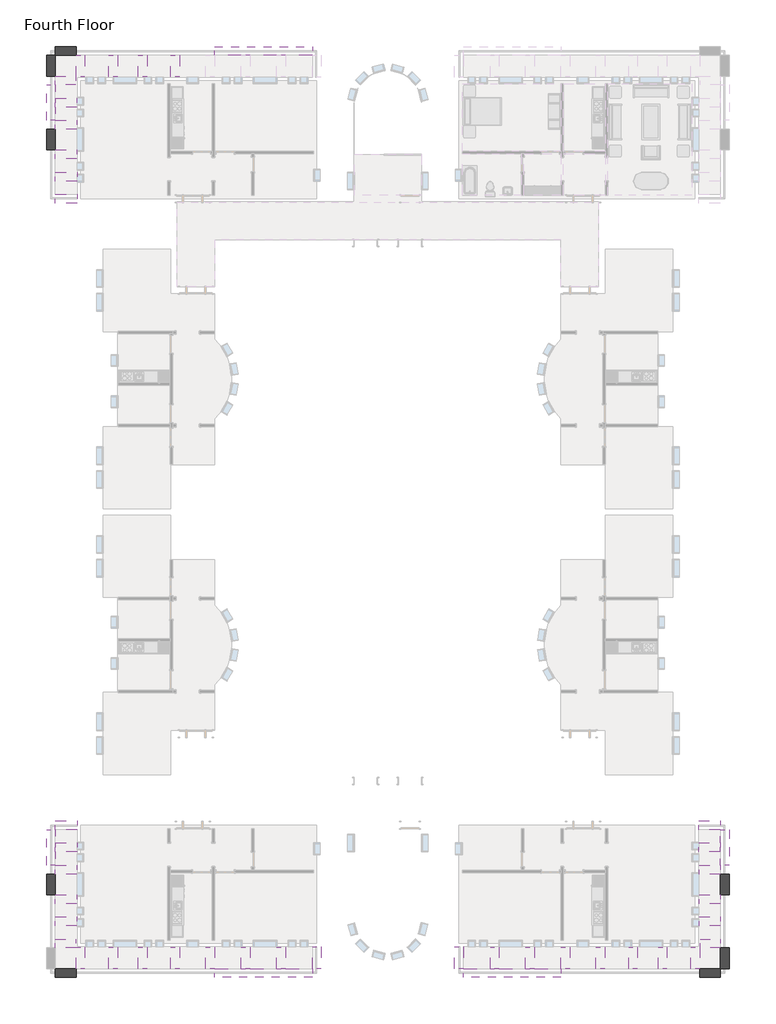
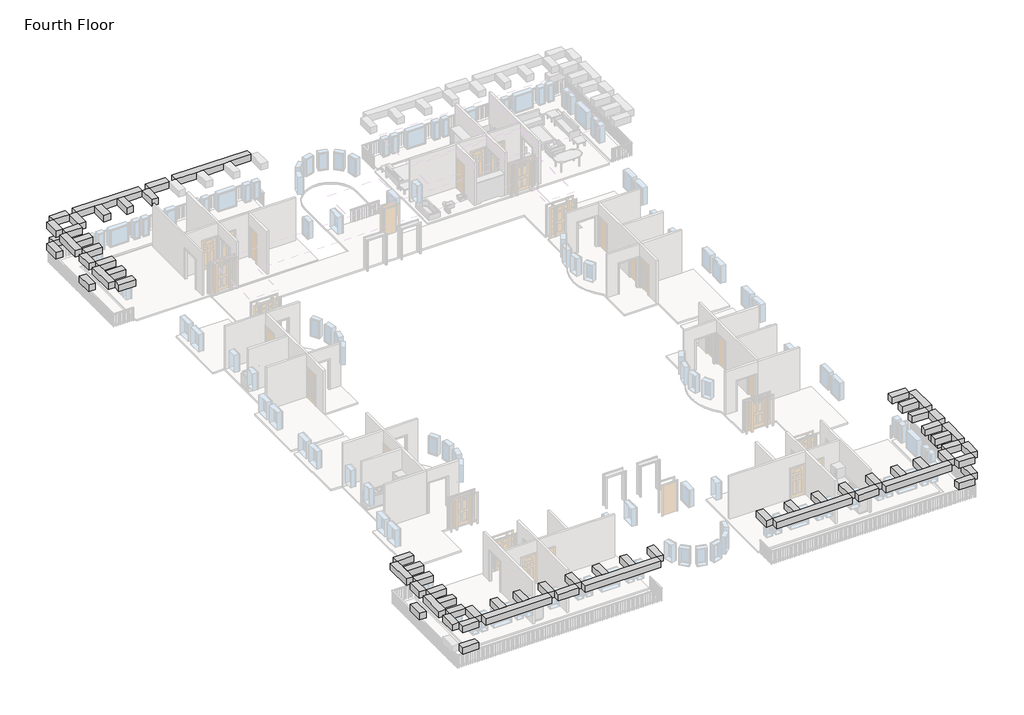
# One storey, part 4 of 5: 52 beams.
"""IFC4 building model written with IfcOpenShell, lengths in millimetres."""

from ifc_helpers import new_model, si_unit, frame, origin, place, context, project, spatial, polyline, outline, extrude, faceted_brep, element, save

model = new_model("IFC4")

# Units and contexts
model_context = context("Model", 3, world=origin())
ifc_project = project(units=[si_unit("LENGTHUNIT", "METRE", prefix="MILLI")], contexts=[model_context])

# Site, building, storey
site = spatial("IfcSite", under=ifc_project)
building = spatial("IfcBuilding", under=site)
storey = spatial("IfcBuildingStorey", under=building, Name="Fourth Floor", Elevation=9144.0)

# Beams
placement = place(None, origin())
element("IfcBeam", 1, ObjectType="Concrete-Rectangular Beam : 18 x 18", at=placement, inside=storey, context=model_context, shape_type="Brep", body=[
    faceted_brep([(-32218.2839563, 12198.8316867, 12192.0), (-32218.2839563, 11741.6316867, 12192.0), (-31151.4839563, 11741.6316867, 12192.0), (-31151.4839563, 12198.8316867, 12192.0), (-32218.2839563, 11741.6316867, 11734.8), (-31151.4839563, 11741.6316867, 11734.8), (-32218.2839563, 12198.8316867, 11734.8), (-31151.4839563, 12198.8316867, 11734.8)], [[[0, 1, 2, 3]], [[1, 4, 5, 2]], [[4, 6, 7, 5]], [[6, 0, 3, 7]], [[1, 0, 6, 4]], [[3, 2, 5, 7]]]),
    faceted_brep([(-30694.2839563, 11741.6316867, 12192.0), (-30694.2839563, 12198.8316867, 12192.0), (-30694.2839563, 12198.8316867, 11734.8), (-30694.2839563, 11741.6316867, 11734.8), (-29468.7339563, 11741.6316867, 12192.0), (-29011.5339563, 11741.6316867, 12192.0), (-27944.7339563, 11741.6316867, 12192.0), (-27487.5339563, 11741.6316867, 12192.0), (-26261.9839563, 11741.6316867, 12192.0), (-26261.9839563, 12198.8316867, 12192.0), (-29468.7339563, 11741.6316867, 11734.8), (-29011.5339563, 11741.6316867, 11734.8), (-27944.7339563, 11741.6316867, 11734.8), (-27487.5339563, 11741.6316867, 11734.8), (-26261.9839563, 11741.6316867, 11734.8), (-26261.9839563, 12198.8316867, 11734.8)], [[[0, 1, 2, 3]], [[1, 0, 4, 5, 6, 7, 8, 9]], [[0, 3, 10, 11, 12, 13, 14, 8, 7, 6, 5, 4]], [[3, 2, 15, 14, 13, 12, 11, 10]], [[2, 1, 9, 15]], [[9, 8, 14, 15]]]),
    faceted_brep([(-24458.5839563, 12198.8316867, 12192.0), (-24458.5839563, 11741.6316867, 12192.0), (-24458.5839563, 11741.6316867, 11734.8), (-24458.5839563, 12198.8316867, 11734.8), (-25804.7839563, 11741.6316867, 12192.0), (-25804.7839563, 12198.8316867, 12192.0), (-25804.7839563, 12198.8316867, 11734.8), (-25804.7839563, 11741.6316867, 11734.8)], [[[0, 1, 2, 3]], [[4, 5, 6, 7]], [[1, 0, 5, 4]], [[2, 1, 4, 7]], [[3, 2, 7, 6]], [[0, 3, 6, 5]]]),
    faceted_brep([(-24001.3839563, 11741.6316867, 12192.0), (-24001.3839563, 12198.8316867, 12192.0), (-24001.3839563, 12198.8316867, 11734.8), (-24001.3839563, 11741.6316867, 11734.8), (-22629.7839563, 11741.6316867, 12192.0), (-22172.5839563, 11741.6316867, 12192.0), (-20800.9839563, 11741.6316867, 12192.0), (-20343.7839563, 11741.6316867, 12192.0), (-18959.4839563, 11741.6316867, 12192.0), (-18959.4839563, 12198.8316867, 12192.0), (-22629.7839563, 11741.6316867, 11734.8), (-22172.5839563, 11741.6316867, 11734.8), (-20800.9839563, 11741.6316867, 11734.8), (-20343.7839563, 11741.6316867, 11734.8), (-18959.4839563, 11741.6316867, 11734.8), (-18959.4839563, 12198.8316867, 11734.8)], [[[0, 1, 2, 3]], [[1, 0, 4, 5, 6, 7, 8, 9]], [[0, 3, 10, 11, 12, 13, 14, 8, 7, 6, 5, 4]], [[3, 2, 15, 14, 13, 12, 11, 10]], [[2, 1, 9, 15]], [[9, 8, 14, 15]]]),
])
element("IfcBeam", 2, ObjectType="Concrete-Rectangular Beam : 18 x 18", at=placement, inside=storey, context=model_context, shape_type="Brep", body=[
    faceted_brep([(-32675.4839563, 4578.8316867, 12192.0), (-32218.2839563, 4578.8316867, 12192.0), (-32218.2839563, 5264.6316867, 12192.0), (-32218.2839563, 5721.8316867, 12192.0), (-32218.2839563, 6407.6316867, 12192.0), (-32675.4839563, 6407.6316867, 12192.0), (-32218.2839563, 4578.8316867, 11734.8), (-32218.2839563, 5264.6316867, 11734.8), (-32218.2839563, 5721.8316867, 11734.8), (-32218.2839563, 6407.6316867, 11734.8), (-32675.4839563, 4578.8316867, 11734.8), (-32675.4839563, 6407.6316867, 11734.8)], [[[0, 1, 2, 3, 4, 5]], [[1, 6, 7, 8, 9, 4, 3, 2]], [[6, 10, 11, 9, 8, 7]], [[10, 0, 5, 11]], [[1, 0, 10, 6]], [[5, 4, 9, 11]]]),
    faceted_brep([(-32218.2839563, 11741.6316867, 12192.0), (-32218.2839563, 11741.6316867, 11734.8), (-32675.4839563, 11741.6316867, 11734.8), (-32675.4839563, 11741.6316867, 12192.0), (-32218.2839563, 10674.8316867, 12192.0), (-32675.4839563, 10674.8316867, 12192.0), (-32675.4839563, 10674.8316867, 11734.8), (-32218.2839563, 10674.8316867, 11734.8)], [[[0, 1, 2, 3]], [[4, 5, 6, 7]], [[0, 3, 5, 4]], [[1, 0, 4, 7]], [[2, 1, 7, 6]], [[3, 2, 6, 5]]]),
    faceted_brep([(-32218.2839563, 6864.8316867, 12192.0), (-32675.4839563, 6864.8316867, 12192.0), (-32675.4839563, 6864.8316867, 11734.8), (-32218.2839563, 6864.8316867, 11734.8), (-32218.2839563, 7931.6316867, 12192.0), (-32675.4839563, 7931.6316867, 12192.0), (-32218.2839563, 7931.6316867, 11734.8), (-32675.4839563, 7931.6316867, 11734.8)], [[[0, 1, 2, 3]], [[1, 0, 4, 5]], [[0, 3, 6, 4]], [[3, 2, 7, 6]], [[2, 1, 5, 7]], [[5, 4, 6, 7]]]),
    faceted_brep([(-32675.4839563, 10217.6316867, 12192.0), (-32218.2839563, 10217.6316867, 12192.0), (-32218.2839563, 10217.6316867, 11734.8), (-32675.4839563, 10217.6316867, 11734.8), (-32218.2839563, 8388.8316867, 12192.0), (-32675.4839563, 8388.8316867, 12192.0), (-32675.4839563, 8388.8316867, 11734.8), (-32218.2839563, 8388.8316867, 11734.8), (-32218.2839563, 9074.6316867, 12192.0), (-32218.2839563, 9531.8316867, 12192.0), (-32218.2839563, 9074.6316867, 11734.8), (-32218.2839563, 9531.8316867, 11734.8)], [[[0, 1, 2, 3]], [[4, 5, 6, 7]], [[1, 0, 5, 4, 8, 9]], [[2, 1, 9, 8, 4, 7, 10, 11]], [[3, 2, 11, 10, 7, 6]], [[0, 3, 6, 5]]]),
])
element("IfcBeam", 3, ObjectType="Concrete-Rectangular Beam : 18 x 18", at=placement, inside=storey, context=model_context, shape_type="SweptSolid", body=[
    extrude(outline(polyline([(-32218.2839563, 12198.8316867), (-31151.4839563, 12198.8316867), (-31151.4839563, 11741.6316867), (-32218.2839563, 11741.6316867), (-32218.2839563, 12198.8316867)])), frame((0.0, 0.0, 10210.8), z_axis=(0.0, 0.0, 1.0), x_axis=(1.0, 0.0, 0.0)), (0.0, 0.0, 1.0), 457.2),
])
element("IfcBeam", 4, ObjectType="Concrete-Rectangular Beam : 18 x 18", at=placement, inside=storey, context=model_context, shape_type="SweptSolid", body=[
    extrude(outline(polyline([(-32675.4839563, 10674.8316867), (-32675.4839563, 11741.6316867), (-32218.2839563, 11741.6316867), (-32218.2839563, 10674.8316867), (-32675.4839563, 10674.8316867)])), frame((0.0, 0.0, 10210.8), z_axis=(0.0, 0.0, 1.0), x_axis=(1.0, 0.0, 0.0)), (0.0, 0.0, 1.0), 457.2),
])
element("IfcBeam", 5, ObjectType="Concrete-Rectangular Beam : 18 x 18", at=placement, inside=storey, context=model_context, shape_type="SweptSolid", body=[
    extrude(outline(polyline([(-31126.0839563, 6864.8316867), (-31126.0839563, 6407.6316867), (-32218.2839563, 6407.6316867), (-32218.2839563, 6864.8316867), (-31126.0839563, 6864.8316867)])), frame((0.0, 0.0, 11734.8), z_axis=(0.0, 0.0, 1.0), x_axis=(1.0, 0.0, 0.0)), (0.0, 0.0, 1.0), 457.2),
])
element("IfcBeam", 6, ObjectType="Concrete-Rectangular Beam : 18 x 18", at=placement, inside=storey, context=model_context, shape_type="SweptSolid", body=[
    extrude(outline(polyline([(-25804.7839563, 10643.0816867), (-26261.9839563, 10643.0816867), (-26261.9839563, 11741.6316867), (-25804.7839563, 11741.6316867), (-25804.7839563, 10643.0816867)])), frame((0.0, 0.0, 11734.8), z_axis=(0.0, 0.0, 1.0), x_axis=(1.0, 0.0, 0.0)), (0.0, 0.0, 1.0), 457.2),
])
element("IfcBeam", 7, ObjectType="Concrete-Rectangular Beam : 18 x 18", at=placement, inside=storey, context=model_context, shape_type="SweptSolid", body=[
    extrude(outline(polyline([(-31126.0839563, 8388.8316867), (-31126.0839563, 7931.6316867), (-32218.2839563, 7931.6316867), (-32218.2839563, 8388.8316867), (-31126.0839563, 8388.8316867)])), frame((0.0, 0.0, 11734.8), z_axis=(0.0, 0.0, 1.0), x_axis=(1.0, 0.0, 0.0)), (0.0, 0.0, 1.0), 457.2),
])
element("IfcBeam", 8, ObjectType="Concrete-Rectangular Beam : 18 x 18", at=placement, inside=storey, context=model_context, shape_type="SweptSolid", body=[
    extrude(outline(polyline([(-31100.6839563, 4578.8316867), (-31100.6839563, 4121.6316867), (-32218.2839563, 4121.6316867), (-32218.2839563, 4578.8316867), (-31100.6839563, 4578.8316867)])), frame((0.0, 0.0, 11734.8), z_axis=(0.0, 0.0, 1.0), x_axis=(1.0, 0.0, 0.0)), (0.0, 0.0, 1.0), 457.2),
])
element("IfcBeam", 9, ObjectType="Concrete-Rectangular Beam : 18 x 18", at=placement, inside=storey, context=model_context, shape_type="SweptSolid", body=[
    extrude(outline(polyline([(-31100.6839563, 5721.8316867), (-31100.6839563, 5264.6316867), (-32218.2839563, 5264.6316867), (-32218.2839563, 5721.8316867), (-31100.6839563, 5721.8316867)])), frame((0.0, 0.0, 11734.8), z_axis=(0.0, 0.0, 1.0), x_axis=(1.0, 0.0, 0.0)), (0.0, 0.0, 1.0), 457.2),
])
element("IfcBeam", 10, ObjectType="Concrete-Rectangular Beam : 18 x 18", at=placement, inside=storey, context=model_context, shape_type="SweptSolid", body=[
    extrude(outline(polyline([(-30694.2839563, 10643.0816867), (-31151.4839563, 10643.0816867), (-31151.4839563, 11741.6316867), (-30694.2839563, 11741.6316867), (-30694.2839563, 10643.0816867)])), frame((0.0, 0.0, 11734.8), z_axis=(0.0, 0.0, 1.0), x_axis=(1.0, 0.0, 0.0)), (0.0, 0.0, 1.0), 457.2),
])
element("IfcBeam", 11, ObjectType="Concrete-Rectangular Beam : 18 x 18", at=placement, inside=storey, context=model_context, shape_type="SweptSolid", body=[
    extrude(outline(polyline([(-31176.8839563, 10674.8316867), (-31176.8839563, 10217.6316867), (-32218.2839563, 10217.6316867), (-32218.2839563, 10674.8316867), (-31176.8839563, 10674.8316867)])), frame((0.0, 0.0, 11734.8), z_axis=(0.0, 0.0, 1.0), x_axis=(1.0, 0.0, 0.0)), (0.0, 0.0, 1.0), 457.2),
])
element("IfcBeam", 12, ObjectType="Concrete-Rectangular Beam : 18 x 18", at=placement, inside=storey, context=model_context, shape_type="SweptSolid", body=[
    extrude(outline(polyline([(-31126.0839563, 9531.8316867), (-31126.0839563, 9074.6316867), (-32218.2839563, 9074.6316867), (-32218.2839563, 9531.8316867), (-31126.0839563, 9531.8316867)])), frame((0.0, 0.0, 11734.8), z_axis=(0.0, 0.0, 1.0), x_axis=(1.0, 0.0, 0.0)), (0.0, 0.0, 1.0), 457.2),
])
element("IfcBeam", 13, ObjectType="Concrete-Rectangular Beam : 18 x 18", at=placement, inside=storey, context=model_context, shape_type="SweptSolid", body=[
    extrude(outline(polyline([(-27487.5339563, 10643.0816867), (-27944.7339563, 10643.0816867), (-27944.7339563, 11741.6316867), (-27487.5339563, 11741.6316867), (-27487.5339563, 10643.0816867)])), frame((0.0, 0.0, 11734.8), z_axis=(0.0, 0.0, 1.0), x_axis=(1.0, 0.0, 0.0)), (0.0, 0.0, 1.0), 457.2),
])
element("IfcBeam", 14, ObjectType="Concrete-Rectangular Beam : 18 x 18", at=placement, inside=storey, context=model_context, shape_type="SweptSolid", body=[
    extrude(outline(polyline([(-29011.5339563, 10643.0816867), (-29468.7339563, 10643.0816867), (-29468.7339563, 11741.6316867), (-29011.5339563, 11741.6316867), (-29011.5339563, 10643.0816867)])), frame((0.0, 0.0, 11734.8), z_axis=(0.0, 0.0, 1.0), x_axis=(1.0, 0.0, 0.0)), (0.0, 0.0, 1.0), 457.2),
])
element("IfcBeam", 15, ObjectType="Concrete-Rectangular Beam : 18 x 18", at=placement, inside=storey, context=model_context, shape_type="SweptSolid", body=[
    extrude(outline(polyline([(-32675.4839563, 6864.8316867), (-32675.4839563, 7931.6316867), (-32218.2839563, 7931.6316867), (-32218.2839563, 6864.8316867), (-32675.4839563, 6864.8316867)])), frame((0.0, 0.0, 10210.8), z_axis=(0.0, 0.0, 1.0), x_axis=(1.0, 0.0, 0.0)), (0.0, 0.0, 1.0), 457.2),
])
element("IfcBeam", 16, ObjectType="Concrete-Rectangular Beam : 18 x 18", at=placement, inside=storey, context=model_context, shape_type="Brep", body=[
    faceted_brep([(2093.9410437, -35807.1683133, 12192.0), (2093.9410437, -35349.9683133, 12192.0), (1027.1410437, -35349.9683133, 12192.0), (1027.1410437, -35807.1683133, 12192.0), (2093.9410437, -35349.9683133, 11734.8), (1027.1410437, -35349.9683133, 11734.8), (2093.9410437, -35807.1683133, 11734.8), (1027.1410437, -35807.1683133, 11734.8)], [[[0, 1, 2, 3]], [[1, 4, 5, 2]], [[4, 6, 7, 5]], [[6, 0, 3, 7]], [[1, 0, 6, 4]], [[3, 2, 5, 7]]]),
    faceted_brep([(569.9410437, -35349.9683133, 12192.0), (569.9410437, -35807.1683133, 12192.0), (569.9410437, -35807.1683133, 11734.8), (569.9410437, -35349.9683133, 11734.8), (-655.6089563, -35349.9683133, 12192.0), (-1112.8089563, -35349.9683133, 12192.0), (-2179.6089563, -35349.9683133, 12192.0), (-2636.8089563, -35349.9683133, 12192.0), (-3862.3589563, -35349.9683133, 12192.0), (-3862.3589563, -35807.1683133, 12192.0), (-655.6089563, -35349.9683133, 11734.8), (-1112.8089563, -35349.9683133, 11734.8), (-2179.6089563, -35349.9683133, 11734.8), (-2636.8089563, -35349.9683133, 11734.8), (-3862.3589563, -35349.9683133, 11734.8), (-3862.3589563, -35807.1683133, 11734.8)], [[[0, 1, 2, 3]], [[1, 0, 4, 5, 6, 7, 8, 9]], [[0, 3, 10, 11, 12, 13, 14, 8, 7, 6, 5, 4]], [[3, 2, 15, 14, 13, 12, 11, 10]], [[2, 1, 9, 15]], [[9, 8, 14, 15]]]),
    faceted_brep([(-5665.7589563, -35807.1683133, 12192.0), (-5665.7589563, -35349.9683133, 12192.0), (-5665.7589563, -35349.9683133, 11734.8), (-5665.7589563, -35807.1683133, 11734.8), (-4319.5589563, -35349.9683133, 12192.0), (-4319.5589563, -35807.1683133, 12192.0), (-4319.5589563, -35807.1683133, 11734.8), (-4319.5589563, -35349.9683133, 11734.8)], [[[0, 1, 2, 3]], [[4, 5, 6, 7]], [[1, 0, 5, 4]], [[2, 1, 4, 7]], [[3, 2, 7, 6]], [[0, 3, 6, 5]]]),
    faceted_brep([(-6122.9589563, -35349.9683133, 12192.0), (-6122.9589563, -35807.1683133, 12192.0), (-6122.9589563, -35807.1683133, 11734.8), (-6122.9589563, -35349.9683133, 11734.8), (-7494.5589563, -35349.9683133, 12192.0), (-7951.7589563, -35349.9683133, 12192.0), (-9323.3589563, -35349.9683133, 12192.0), (-9780.5589563, -35349.9683133, 12192.0), (-11164.8589563, -35349.9683133, 12192.0), (-11164.8589563, -35807.1683133, 12192.0), (-7494.5589563, -35349.9683133, 11734.8), (-7951.7589563, -35349.9683133, 11734.8), (-9323.3589563, -35349.9683133, 11734.8), (-9780.5589563, -35349.9683133, 11734.8), (-11164.8589563, -35349.9683133, 11734.8), (-11164.8589563, -35807.1683133, 11734.8)], [[[0, 1, 2, 3]], [[1, 0, 4, 5, 6, 7, 8, 9]], [[0, 3, 10, 11, 12, 13, 14, 8, 7, 6, 5, 4]], [[3, 2, 15, 14, 13, 12, 11, 10]], [[2, 1, 9, 15]], [[9, 8, 14, 15]]]),
])
element("IfcBeam", 17, ObjectType="Concrete-Rectangular Beam : 18 x 18", at=placement, inside=storey, context=model_context, shape_type="Brep", body=[
    faceted_brep([(2551.1410437, -28187.1683133, 12192.0), (2093.9410437, -28187.1683133, 12192.0), (2093.9410437, -28872.9683133, 12192.0), (2093.9410437, -29330.1683133, 12192.0), (2093.9410437, -30015.9683133, 12192.0), (2551.1410437, -30015.9683133, 12192.0), (2093.9410437, -28187.1683133, 11734.8), (2093.9410437, -28872.9683133, 11734.8), (2093.9410437, -29330.1683133, 11734.8), (2093.9410437, -30015.9683133, 11734.8), (2551.1410437, -28187.1683133, 11734.8), (2551.1410437, -30015.9683133, 11734.8)], [[[0, 1, 2, 3, 4, 5]], [[1, 6, 7, 8, 9, 4, 3, 2]], [[6, 10, 11, 9, 8, 7]], [[10, 0, 5, 11]], [[1, 0, 10, 6]], [[5, 4, 9, 11]]]),
    faceted_brep([(2093.9410437, -35349.9683133, 12192.0), (2093.9410437, -35349.9683133, 11734.8), (2551.1410437, -35349.9683133, 11734.8), (2551.1410437, -35349.9683133, 12192.0), (2093.9410437, -34283.1683133, 12192.0), (2551.1410437, -34283.1683133, 12192.0), (2551.1410437, -34283.1683133, 11734.8), (2093.9410437, -34283.1683133, 11734.8)], [[[0, 1, 2, 3]], [[4, 5, 6, 7]], [[0, 3, 5, 4]], [[1, 0, 4, 7]], [[2, 1, 7, 6]], [[3, 2, 6, 5]]]),
    faceted_brep([(2093.9410437, -30473.1683133, 12192.0), (2551.1410437, -30473.1683133, 12192.0), (2551.1410437, -30473.1683133, 11734.8), (2093.9410437, -30473.1683133, 11734.8), (2093.9410437, -31539.9683133, 12192.0), (2551.1410437, -31539.9683133, 12192.0), (2093.9410437, -31539.9683133, 11734.8), (2551.1410437, -31539.9683133, 11734.8)], [[[0, 1, 2, 3]], [[1, 0, 4, 5]], [[0, 3, 6, 4]], [[3, 2, 7, 6]], [[2, 1, 5, 7]], [[5, 4, 6, 7]]]),
    faceted_brep([(2551.1410437, -33825.9683133, 12192.0), (2093.9410437, -33825.9683133, 12192.0), (2093.9410437, -33825.9683133, 11734.8), (2551.1410437, -33825.9683133, 11734.8), (2093.9410437, -31997.1683133, 12192.0), (2551.1410437, -31997.1683133, 12192.0), (2551.1410437, -31997.1683133, 11734.8), (2093.9410437, -31997.1683133, 11734.8), (2093.9410437, -32682.9683133, 12192.0), (2093.9410437, -33140.1683133, 12192.0), (2093.9410437, -32682.9683133, 11734.8), (2093.9410437, -33140.1683133, 11734.8)], [[[0, 1, 2, 3]], [[4, 5, 6, 7]], [[1, 0, 5, 4, 8, 9]], [[2, 1, 9, 8, 4, 7, 10, 11]], [[3, 2, 11, 10, 7, 6]], [[0, 3, 6, 5]]]),
])
element("IfcBeam", 18, ObjectType="Concrete-Rectangular Beam : 18 x 18", at=placement, inside=storey, context=model_context, shape_type="SweptSolid", body=[
    extrude(outline(polyline([(2093.9410437, -35807.1683133), (1027.1410437, -35807.1683133), (1027.1410437, -35349.9683133), (2093.9410437, -35349.9683133), (2093.9410437, -35807.1683133)])), frame((0.0, 0.0, 10210.8), z_axis=(0.0, 0.0, 1.0), x_axis=(1.0, 0.0, 0.0)), (0.0, 0.0, 1.0), 457.2),
])
element("IfcBeam", 19, ObjectType="Concrete-Rectangular Beam : 18 x 18", at=placement, inside=storey, context=model_context, shape_type="SweptSolid", body=[
    extrude(outline(polyline([(2551.1410437, -34283.1683133), (2551.1410437, -35349.9683133), (2093.9410437, -35349.9683133), (2093.9410437, -34283.1683133), (2551.1410437, -34283.1683133)])), frame((0.0, 0.0, 10210.8), z_axis=(0.0, 0.0, 1.0), x_axis=(1.0, 0.0, 0.0)), (0.0, 0.0, 1.0), 457.2),
])
element("IfcBeam", 20, ObjectType="Concrete-Rectangular Beam : 18 x 18", at=placement, inside=storey, context=model_context, shape_type="SweptSolid", body=[
    extrude(outline(polyline([(-11622.0589563, -34232.3683133), (-11164.8589563, -34232.3683133), (-11164.8589563, -35349.9683133), (-11622.0589563, -35349.9683133), (-11622.0589563, -34232.3683133)])), frame((0.0, 0.0, 11734.8), z_axis=(0.0, 0.0, 1.0), x_axis=(1.0, 0.0, 0.0)), (0.0, 0.0, 1.0), 457.2),
])
element("IfcBeam", 21, ObjectType="Concrete-Rectangular Beam : 18 x 18", at=placement, inside=storey, context=model_context, shape_type="SweptSolid", body=[
    extrude(outline(polyline([(-6122.9589563, -34251.4183133), (-5665.7589563, -34251.4183133), (-5665.7589563, -35349.9683133), (-6122.9589563, -35349.9683133), (-6122.9589563, -34251.4183133)])), frame((0.0, 0.0, 11734.8), z_axis=(0.0, 0.0, 1.0), x_axis=(1.0, 0.0, 0.0)), (0.0, 0.0, 1.0), 457.2),
])
element("IfcBeam", 22, ObjectType="Concrete-Rectangular Beam : 18 x 18", at=placement, inside=storey, context=model_context, shape_type="SweptSolid", body=[
    extrude(outline(polyline([(1001.7410437, -30473.1683133), (1001.7410437, -30015.9683133), (2093.9410437, -30015.9683133), (2093.9410437, -30473.1683133), (1001.7410437, -30473.1683133)])), frame((0.0, 0.0, 11734.8), z_axis=(0.0, 0.0, 1.0), x_axis=(1.0, 0.0, 0.0)), (0.0, 0.0, 1.0), 457.2),
])
element("IfcBeam", 23, ObjectType="Concrete-Rectangular Beam : 18 x 18", at=placement, inside=storey, context=model_context, shape_type="SweptSolid", body=[
    extrude(outline(polyline([(-4319.5589563, -34251.4183133), (-3862.3589563, -34251.4183133), (-3862.3589563, -35349.9683133), (-4319.5589563, -35349.9683133), (-4319.5589563, -34251.4183133)])), frame((0.0, 0.0, 11734.8), z_axis=(0.0, 0.0, 1.0), x_axis=(1.0, 0.0, 0.0)), (0.0, 0.0, 1.0), 457.2),
])
element("IfcBeam", 24, ObjectType="Concrete-Rectangular Beam : 18 x 18", at=placement, inside=storey, context=model_context, shape_type="SweptSolid", body=[
    extrude(outline(polyline([(1001.7410437, -31997.1683133), (1001.7410437, -31539.9683133), (2093.9410437, -31539.9683133), (2093.9410437, -31997.1683133), (1001.7410437, -31997.1683133)])), frame((0.0, 0.0, 11734.8), z_axis=(0.0, 0.0, 1.0), x_axis=(1.0, 0.0, 0.0)), (0.0, 0.0, 1.0), 457.2),
])
element("IfcBeam", 25, ObjectType="Concrete-Rectangular Beam : 18 x 18", at=placement, inside=storey, context=model_context, shape_type="SweptSolid", body=[
    extrude(outline(polyline([(976.3410437, -28187.1683133), (976.3410437, -27729.9683133), (2093.9410437, -27729.9683133), (2093.9410437, -28187.1683133), (976.3410437, -28187.1683133)])), frame((0.0, 0.0, 11734.8), z_axis=(0.0, 0.0, 1.0), x_axis=(1.0, 0.0, 0.0)), (0.0, 0.0, 1.0), 457.2),
])
element("IfcBeam", 26, ObjectType="Concrete-Rectangular Beam : 18 x 18", at=placement, inside=storey, context=model_context, shape_type="SweptSolid", body=[
    extrude(outline(polyline([(976.3410437, -29330.1683133), (976.3410437, -28872.9683133), (2093.9410437, -28872.9683133), (2093.9410437, -29330.1683133), (976.3410437, -29330.1683133)])), frame((0.0, 0.0, 11734.8), z_axis=(0.0, 0.0, 1.0), x_axis=(1.0, 0.0, 0.0)), (0.0, 0.0, 1.0), 457.2),
])
element("IfcBeam", 27, ObjectType="Concrete-Rectangular Beam : 18 x 18", at=placement, inside=storey, context=model_context, shape_type="SweptSolid", body=[
    extrude(outline(polyline([(569.9410437, -34251.4183133), (1027.1410437, -34251.4183133), (1027.1410437, -35349.9683133), (569.9410437, -35349.9683133), (569.9410437, -34251.4183133)])), frame((0.0, 0.0, 11734.8), z_axis=(0.0, 0.0, 1.0), x_axis=(1.0, 0.0, 0.0)), (0.0, 0.0, 1.0), 457.2),
])
element("IfcBeam", 28, ObjectType="Concrete-Rectangular Beam : 18 x 18", at=placement, inside=storey, context=model_context, shape_type="SweptSolid", body=[
    extrude(outline(polyline([(1052.5410437, -34283.1683133), (1052.5410437, -33825.9683133), (2093.9410437, -33825.9683133), (2093.9410437, -34283.1683133), (1052.5410437, -34283.1683133)])), frame((0.0, 0.0, 11734.8), z_axis=(0.0, 0.0, 1.0), x_axis=(1.0, 0.0, 0.0)), (0.0, 0.0, 1.0), 457.2),
])
element("IfcBeam", 29, ObjectType="Concrete-Rectangular Beam : 18 x 18", at=placement, inside=storey, context=model_context, shape_type="SweptSolid", body=[
    extrude(outline(polyline([(1001.7410437, -33140.1683133), (1001.7410437, -32682.9683133), (2093.9410437, -32682.9683133), (2093.9410437, -33140.1683133), (1001.7410437, -33140.1683133)])), frame((0.0, 0.0, 11734.8), z_axis=(0.0, 0.0, 1.0), x_axis=(1.0, 0.0, 0.0)), (0.0, 0.0, 1.0), 457.2),
])
element("IfcBeam", 30, ObjectType="Concrete-Rectangular Beam : 18 x 18", at=placement, inside=storey, context=model_context, shape_type="SweptSolid", body=[
    extrude(outline(polyline([(-2636.8089563, -34251.4183133), (-2179.6089563, -34251.4183133), (-2179.6089563, -35349.9683133), (-2636.8089563, -35349.9683133), (-2636.8089563, -34251.4183133)])), frame((0.0, 0.0, 11734.8), z_axis=(0.0, 0.0, 1.0), x_axis=(1.0, 0.0, 0.0)), (0.0, 0.0, 1.0), 457.2),
])
element("IfcBeam", 31, ObjectType="Concrete-Rectangular Beam : 18 x 18", at=placement, inside=storey, context=model_context, shape_type="SweptSolid", body=[
    extrude(outline(polyline([(-1112.8089563, -34251.4183133), (-655.6089563, -34251.4183133), (-655.6089563, -35349.9683133), (-1112.8089563, -35349.9683133), (-1112.8089563, -34251.4183133)])), frame((0.0, 0.0, 11734.8), z_axis=(0.0, 0.0, 1.0), x_axis=(1.0, 0.0, 0.0)), (0.0, 0.0, 1.0), 457.2),
])
element("IfcBeam", 32, ObjectType="Concrete-Rectangular Beam : 18 x 18", at=placement, inside=storey, context=model_context, shape_type="SweptSolid", body=[
    extrude(outline(polyline([(-7951.7589563, -34251.4183133), (-7494.5589563, -34251.4183133), (-7494.5589563, -35349.9683133), (-7951.7589563, -35349.9683133), (-7951.7589563, -34251.4183133)])), frame((0.0, 0.0, 11734.8), z_axis=(0.0, 0.0, 1.0), x_axis=(1.0, 0.0, 0.0)), (0.0, 0.0, 1.0), 457.2),
])
element("IfcBeam", 33, ObjectType="Concrete-Rectangular Beam : 18 x 18", at=placement, inside=storey, context=model_context, shape_type="SweptSolid", body=[
    extrude(outline(polyline([(-9780.5589563, -34251.4183133), (-9323.3589563, -34251.4183133), (-9323.3589563, -35349.9683133), (-9780.5589563, -35349.9683133), (-9780.5589563, -34251.4183133)])), frame((0.0, 0.0, 11734.8), z_axis=(0.0, 0.0, 1.0), x_axis=(1.0, 0.0, 0.0)), (0.0, 0.0, 1.0), 457.2),
])
element("IfcBeam", 34, ObjectType="Concrete-Rectangular Beam : 18 x 18", at=placement, inside=storey, context=model_context, shape_type="SweptSolid", body=[
    extrude(outline(polyline([(2551.1410437, -30473.1683133), (2551.1410437, -31539.9683133), (2093.9410437, -31539.9683133), (2093.9410437, -30473.1683133), (2551.1410437, -30473.1683133)])), frame((0.0, 0.0, 10210.8), z_axis=(0.0, 0.0, 1.0), x_axis=(1.0, 0.0, 0.0)), (0.0, 0.0, 1.0), 457.2),
])
element("IfcBeam", 35, ObjectType="Concrete-Rectangular Beam : 18 x 18", at=placement, inside=storey, context=model_context, shape_type="Brep", body=[
    faceted_brep([(-32218.2839563, -35349.9683133, 12192.0), (-32218.2839563, -35807.1683133, 12192.0), (-31151.4839563, -35807.1683133, 12192.0), (-31151.4839563, -35349.9683133, 12192.0), (-32218.2839563, -35349.9683133, 11734.8), (-31151.4839563, -35349.9683133, 11734.8), (-32218.2839563, -35807.1683133, 11734.8), (-31151.4839563, -35807.1683133, 11734.8)], [[[0, 1, 2, 3]], [[4, 0, 3, 5]], [[6, 4, 5, 7]], [[1, 6, 7, 2]], [[1, 0, 4, 6]], [[3, 2, 7, 5]]]),
    faceted_brep([(-30694.2839563, -35807.1683133, 12192.0), (-30694.2839563, -35349.9683133, 12192.0), (-30694.2839563, -35349.9683133, 11734.8), (-30694.2839563, -35807.1683133, 11734.8), (-26261.9839563, -35807.1683133, 12192.0), (-26261.9839563, -35349.9683133, 12192.0), (-27487.5339563, -35349.9683133, 12192.0), (-27944.7339563, -35349.9683133, 12192.0), (-29011.5339563, -35349.9683133, 12192.0), (-29468.7339563, -35349.9683133, 12192.0), (-26261.9839563, -35349.9683133, 11734.8), (-27487.5339563, -35349.9683133, 11734.8), (-27944.7339563, -35349.9683133, 11734.8), (-29011.5339563, -35349.9683133, 11734.8), (-29468.7339563, -35349.9683133, 11734.8), (-26261.9839563, -35807.1683133, 11734.8)], [[[0, 1, 2, 3]], [[1, 0, 4, 5, 6, 7, 8, 9]], [[2, 1, 9, 8, 7, 6, 5, 10, 11, 12, 13, 14]], [[3, 2, 14, 13, 12, 11, 10, 15]], [[0, 3, 15, 4]], [[5, 4, 15, 10]]]),
    faceted_brep([(-24458.5839563, -35349.9683133, 12192.0), (-24458.5839563, -35807.1683133, 12192.0), (-24458.5839563, -35807.1683133, 11734.8), (-24458.5839563, -35349.9683133, 11734.8), (-25804.7839563, -35807.1683133, 12192.0), (-25804.7839563, -35349.9683133, 12192.0), (-25804.7839563, -35349.9683133, 11734.8), (-25804.7839563, -35807.1683133, 11734.8)], [[[0, 1, 2, 3]], [[4, 5, 6, 7]], [[1, 0, 5, 4]], [[0, 3, 6, 5]], [[3, 2, 7, 6]], [[2, 1, 4, 7]]]),
    faceted_brep([(-24001.3839563, -35807.1683133, 12192.0), (-24001.3839563, -35349.9683133, 12192.0), (-24001.3839563, -35349.9683133, 11734.8), (-24001.3839563, -35807.1683133, 11734.8), (-18959.4839563, -35807.1683133, 12192.0), (-18959.4839563, -35349.9683133, 12192.0), (-20343.7839563, -35349.9683133, 12192.0), (-20800.9839563, -35349.9683133, 12192.0), (-22172.5839563, -35349.9683133, 12192.0), (-22629.7839563, -35349.9683133, 12192.0), (-18959.4839563, -35349.9683133, 11734.8), (-20343.7839563, -35349.9683133, 11734.8), (-20800.9839563, -35349.9683133, 11734.8), (-22172.5839563, -35349.9683133, 11734.8), (-22629.7839563, -35349.9683133, 11734.8), (-18959.4839563, -35807.1683133, 11734.8)], [[[0, 1, 2, 3]], [[1, 0, 4, 5, 6, 7, 8, 9]], [[2, 1, 9, 8, 7, 6, 5, 10, 11, 12, 13, 14]], [[3, 2, 14, 13, 12, 11, 10, 15]], [[0, 3, 15, 4]], [[5, 4, 15, 10]]]),
])
element("IfcBeam", 36, ObjectType="Concrete-Rectangular Beam : 18 x 18", at=placement, inside=storey, context=model_context, shape_type="Brep", body=[
    faceted_brep([(-32675.4839563, -35349.9683133, 12192.0), (-32218.2839563, -35349.9683133, 12192.0), (-32218.2839563, -34283.1683133, 12192.0), (-32675.4839563, -34283.1683133, 12192.0), (-32218.2839563, -35349.9683133, 11734.8), (-32218.2839563, -34283.1683133, 11734.8), (-32675.4839563, -35349.9683133, 11734.8), (-32675.4839563, -34283.1683133, 11734.8)], [[[0, 1, 2, 3]], [[1, 4, 5, 2]], [[4, 6, 7, 5]], [[6, 0, 3, 7]], [[4, 1, 0, 6]], [[3, 2, 5, 7]]]),
    faceted_brep([(-32675.4839563, -28187.1683133, 12192.0), (-32218.2839563, -28187.1683133, 12192.0), (-32218.2839563, -28187.1683133, 11734.8), (-32675.4839563, -28187.1683133, 11734.8), (-32218.2839563, -30015.9683133, 12192.0), (-32675.4839563, -30015.9683133, 12192.0), (-32675.4839563, -30015.9683133, 11734.8), (-32218.2839563, -30015.9683133, 11734.8), (-32218.2839563, -29330.1683133, 12192.0), (-32218.2839563, -28872.9683133, 12192.0), (-32218.2839563, -29330.1683133, 11734.8), (-32218.2839563, -28872.9683133, 11734.8)], [[[0, 1, 2, 3]], [[4, 5, 6, 7]], [[1, 0, 5, 4, 8, 9]], [[2, 1, 9, 8, 4, 7, 10, 11]], [[3, 2, 11, 10, 7, 6]], [[0, 3, 6, 5]]]),
    faceted_brep([(-32675.4839563, -30473.1683133, 12192.0), (-32218.2839563, -30473.1683133, 12192.0), (-32218.2839563, -30473.1683133, 11734.8), (-32675.4839563, -30473.1683133, 11734.8), (-32218.2839563, -31539.9683133, 12192.0), (-32675.4839563, -31539.9683133, 12192.0), (-32675.4839563, -31539.9683133, 11734.8), (-32218.2839563, -31539.9683133, 11734.8)], [[[0, 1, 2, 3]], [[4, 5, 6, 7]], [[1, 0, 5, 4]], [[2, 1, 4, 7]], [[3, 2, 7, 6]], [[0, 3, 6, 5]]]),
    faceted_brep([(-32218.2839563, -33825.9683133, 12192.0), (-32675.4839563, -33825.9683133, 12192.0), (-32675.4839563, -33825.9683133, 11734.8), (-32218.2839563, -33825.9683133, 11734.8), (-32675.4839563, -31997.1683133, 12192.0), (-32218.2839563, -31997.1683133, 12192.0), (-32218.2839563, -31997.1683133, 11734.8), (-32675.4839563, -31997.1683133, 11734.8), (-32218.2839563, -33140.1683133, 12192.0), (-32218.2839563, -32682.9683133, 12192.0), (-32218.2839563, -33140.1683133, 11734.8), (-32218.2839563, -32682.9683133, 11734.8)], [[[0, 1, 2, 3]], [[4, 5, 6, 7]], [[1, 0, 8, 9, 5, 4]], [[0, 3, 10, 11, 6, 5, 9, 8]], [[3, 2, 7, 6, 11, 10]], [[2, 1, 4, 7]]]),
])
element("IfcBeam", 37, ObjectType="Concrete-Rectangular Beam : 18 x 18", at=placement, inside=storey, context=model_context, shape_type="SweptSolid", body=[
    extrude(outline(polyline([(-32218.2839563, -35807.1683133), (-32218.2839563, -35349.9683133), (-31151.4839563, -35349.9683133), (-31151.4839563, -35807.1683133), (-32218.2839563, -35807.1683133)])), frame((0.0, 0.0, 10210.8), z_axis=(0.0, 0.0, 1.0), x_axis=(1.0, 0.0, 0.0)), (0.0, 0.0, 1.0), 457.2),
])
element("IfcBeam", 38, ObjectType="Concrete-Rectangular Beam : 18 x 18", at=placement, inside=storey, context=model_context, shape_type="SweptSolid", body=[
    extrude(outline(polyline([(-18959.4839563, -34232.3683133), (-18502.2839563, -34232.3683133), (-18502.2839563, -35349.9683133), (-18959.4839563, -35349.9683133), (-18959.4839563, -34232.3683133)])), frame((0.0, 0.0, 11734.8), z_axis=(0.0, 0.0, 1.0), x_axis=(1.0, 0.0, 0.0)), (0.0, 0.0, 1.0), 457.2),
])
element("IfcBeam", 39, ObjectType="Concrete-Rectangular Beam : 18 x 18", at=placement, inside=storey, context=model_context, shape_type="SweptSolid", body=[
    extrude(outline(polyline([(-24458.5839563, -34251.4183133), (-24001.3839563, -34251.4183133), (-24001.3839563, -35349.9683133), (-24458.5839563, -35349.9683133), (-24458.5839563, -34251.4183133)])), frame((0.0, 0.0, 11734.8), z_axis=(0.0, 0.0, 1.0), x_axis=(1.0, 0.0, 0.0)), (0.0, 0.0, 1.0), 457.2),
])
element("IfcBeam", 40, ObjectType="Concrete-Rectangular Beam : 18 x 18", at=placement, inside=storey, context=model_context, shape_type="SweptSolid", body=[
    extrude(outline(polyline([(-31126.0839563, -30015.9683133), (-31126.0839563, -30473.1683133), (-32218.2839563, -30473.1683133), (-32218.2839563, -30015.9683133), (-31126.0839563, -30015.9683133)])), frame((0.0, 0.0, 11734.8), z_axis=(0.0, 0.0, 1.0), x_axis=(1.0, 0.0, 0.0)), (0.0, 0.0, 1.0), 457.2),
])
element("IfcBeam", 41, ObjectType="Concrete-Rectangular Beam : 18 x 18", at=placement, inside=storey, context=model_context, shape_type="SweptSolid", body=[
    extrude(outline(polyline([(-26261.9839563, -34251.4183133), (-25804.7839563, -34251.4183133), (-25804.7839563, -35349.9683133), (-26261.9839563, -35349.9683133), (-26261.9839563, -34251.4183133)])), frame((0.0, 0.0, 11734.8), z_axis=(0.0, 0.0, 1.0), x_axis=(1.0, 0.0, 0.0)), (0.0, 0.0, 1.0), 457.2),
])
element("IfcBeam", 42, ObjectType="Concrete-Rectangular Beam : 18 x 18", at=placement, inside=storey, context=model_context, shape_type="SweptSolid", body=[
    extrude(outline(polyline([(-31126.0839563, -31539.9683133), (-31126.0839563, -31997.1683133), (-32218.2839563, -31997.1683133), (-32218.2839563, -31539.9683133), (-31126.0839563, -31539.9683133)])), frame((0.0, 0.0, 11734.8), z_axis=(0.0, 0.0, 1.0), x_axis=(1.0, 0.0, 0.0)), (0.0, 0.0, 1.0), 457.2),
])
element("IfcBeam", 43, ObjectType="Concrete-Rectangular Beam : 18 x 18", at=placement, inside=storey, context=model_context, shape_type="SweptSolid", body=[
    extrude(outline(polyline([(-31100.6839563, -27729.9683133), (-31100.6839563, -28187.1683133), (-32218.2839563, -28187.1683133), (-32218.2839563, -27729.9683133), (-31100.6839563, -27729.9683133)])), frame((0.0, 0.0, 11734.8), z_axis=(0.0, 0.0, 1.0), x_axis=(1.0, 0.0, 0.0)), (0.0, 0.0, 1.0), 457.2),
])
element("IfcBeam", 44, ObjectType="Concrete-Rectangular Beam : 18 x 18", at=placement, inside=storey, context=model_context, shape_type="SweptSolid", body=[
    extrude(outline(polyline([(-31100.6839563, -28872.9683133), (-31100.6839563, -29330.1683133), (-32218.2839563, -29330.1683133), (-32218.2839563, -28872.9683133), (-31100.6839563, -28872.9683133)])), frame((0.0, 0.0, 11734.8), z_axis=(0.0, 0.0, 1.0), x_axis=(1.0, 0.0, 0.0)), (0.0, 0.0, 1.0), 457.2),
])
element("IfcBeam", 45, ObjectType="Concrete-Rectangular Beam : 18 x 18", at=placement, inside=storey, context=model_context, shape_type="SweptSolid", body=[
    extrude(outline(polyline([(-31151.4839563, -34251.4183133), (-30694.2839563, -34251.4183133), (-30694.2839563, -35349.9683133), (-31151.4839563, -35349.9683133), (-31151.4839563, -34251.4183133)])), frame((0.0, 0.0, 11734.8), z_axis=(0.0, 0.0, 1.0), x_axis=(1.0, 0.0, 0.0)), (0.0, 0.0, 1.0), 457.2),
])
element("IfcBeam", 46, ObjectType="Concrete-Rectangular Beam : 18 x 18", at=placement, inside=storey, context=model_context, shape_type="SweptSolid", body=[
    extrude(outline(polyline([(-31176.8839563, -33825.9683133), (-31176.8839563, -34283.1683133), (-32218.2839563, -34283.1683133), (-32218.2839563, -33825.9683133), (-31176.8839563, -33825.9683133)])), frame((0.0, 0.0, 11734.8), z_axis=(0.0, 0.0, 1.0), x_axis=(1.0, 0.0, 0.0)), (0.0, 0.0, 1.0), 457.2),
])
element("IfcBeam", 47, ObjectType="Concrete-Rectangular Beam : 18 x 18", at=placement, inside=storey, context=model_context, shape_type="SweptSolid", body=[
    extrude(outline(polyline([(-31126.0839563, -32682.9683133), (-31126.0839563, -33140.1683133), (-32218.2839563, -33140.1683133), (-32218.2839563, -32682.9683133), (-31126.0839563, -32682.9683133)])), frame((0.0, 0.0, 11734.8), z_axis=(0.0, 0.0, 1.0), x_axis=(1.0, 0.0, 0.0)), (0.0, 0.0, 1.0), 457.2),
])
element("IfcBeam", 48, ObjectType="Concrete-Rectangular Beam : 18 x 18", at=placement, inside=storey, context=model_context, shape_type="SweptSolid", body=[
    extrude(outline(polyline([(-27944.7339563, -34251.4183133), (-27487.5339563, -34251.4183133), (-27487.5339563, -35349.9683133), (-27944.7339563, -35349.9683133), (-27944.7339563, -34251.4183133)])), frame((0.0, 0.0, 11734.8), z_axis=(0.0, 0.0, 1.0), x_axis=(1.0, 0.0, 0.0)), (0.0, 0.0, 1.0), 457.2),
])
element("IfcBeam", 49, ObjectType="Concrete-Rectangular Beam : 18 x 18", at=placement, inside=storey, context=model_context, shape_type="SweptSolid", body=[
    extrude(outline(polyline([(-29468.7339563, -34251.4183133), (-29011.5339563, -34251.4183133), (-29011.5339563, -35349.9683133), (-29468.7339563, -35349.9683133), (-29468.7339563, -34251.4183133)])), frame((0.0, 0.0, 11734.8), z_axis=(0.0, 0.0, 1.0), x_axis=(1.0, 0.0, 0.0)), (0.0, 0.0, 1.0), 457.2),
])
element("IfcBeam", 50, ObjectType="Concrete-Rectangular Beam : 18 x 18", at=placement, inside=storey, context=model_context, shape_type="SweptSolid", body=[
    extrude(outline(polyline([(-22629.7839563, -34251.4183133), (-22172.5839563, -34251.4183133), (-22172.5839563, -35349.9683133), (-22629.7839563, -35349.9683133), (-22629.7839563, -34251.4183133)])), frame((0.0, 0.0, 11734.8), z_axis=(0.0, 0.0, 1.0), x_axis=(1.0, 0.0, 0.0)), (0.0, 0.0, 1.0), 457.2),
])
element("IfcBeam", 51, ObjectType="Concrete-Rectangular Beam : 18 x 18", at=placement, inside=storey, context=model_context, shape_type="SweptSolid", body=[
    extrude(outline(polyline([(-20800.9839563, -34251.4183133), (-20343.7839563, -34251.4183133), (-20343.7839563, -35349.9683133), (-20800.9839563, -35349.9683133), (-20800.9839563, -34251.4183133)])), frame((0.0, 0.0, 11734.8), z_axis=(0.0, 0.0, 1.0), x_axis=(1.0, 0.0, 0.0)), (0.0, 0.0, 1.0), 457.2),
])
element("IfcBeam", 52, ObjectType="Concrete-Rectangular Beam : 18 x 18", at=placement, inside=storey, context=model_context, shape_type="SweptSolid", body=[
    extrude(outline(polyline([(-32675.4839563, -30473.1683133), (-32218.2839563, -30473.1683133), (-32218.2839563, -31539.9683133), (-32675.4839563, -31539.9683133), (-32675.4839563, -30473.1683133)])), frame((0.0, 0.0, 10210.8), z_axis=(0.0, 0.0, 1.0), x_axis=(1.0, 0.0, 0.0)), (0.0, 0.0, 1.0), 457.2),
])

save(model, "model.ifc")
